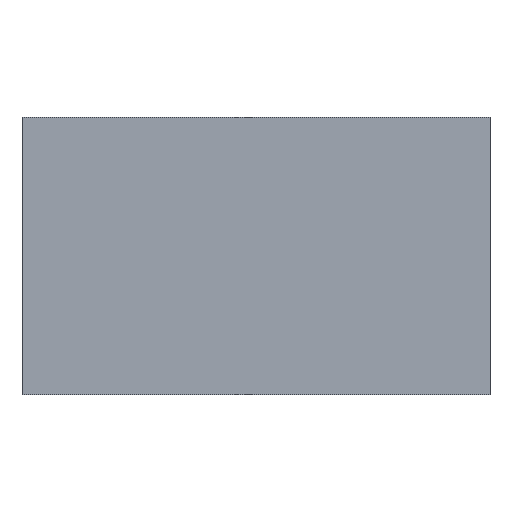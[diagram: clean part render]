
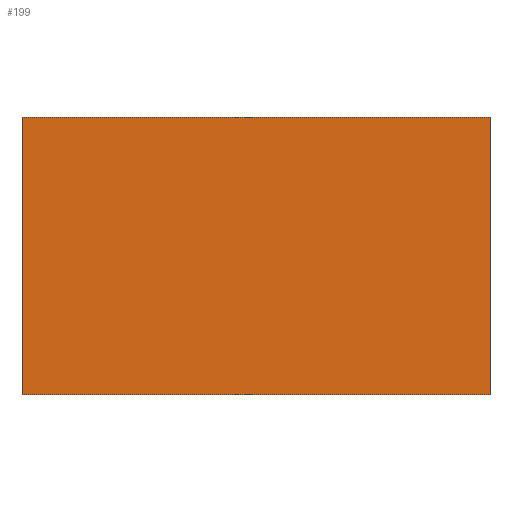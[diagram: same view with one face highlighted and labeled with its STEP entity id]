
A CAD part, top view. The second image highlights one B-rep face of the part: STEP entity #199.
In plain terms, the highlighted planar face has unit normal (0, 0, 1).
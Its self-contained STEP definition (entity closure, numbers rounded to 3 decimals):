
#17 = EDGE_CURVE ( 'NONE', #39, #36, #130, .T. ) ;
#18 = EDGE_CURVE ( 'NONE', #48, #39, #150, .T. ) ;
#22 = AXIS2_PLACEMENT_3D ( 'NONE', #80, #114, #111 ) ;
#23 = EDGE_CURVE ( 'NONE', #38, #48, #188, .T. ) ;
#25 = EDGE_CURVE ( 'NONE', #36, #38, #157, .T. ) ;
#36 = VERTEX_POINT ( 'NONE', #93 ) ;
#38 = VERTEX_POINT ( 'NONE', #77 ) ;
#39 = VERTEX_POINT ( 'NONE', #67 ) ;
#41 = CARTESIAN_POINT ( 'NONE',  ( -404., 0., 6. ) ) ;
#48 = VERTEX_POINT ( 'NONE', #119 ) ;
#67 = CARTESIAN_POINT ( 'NONE',  ( -404., 0., 6. ) ) ;
#69 = CARTESIAN_POINT ( 'NONE',  ( -404., 0., 6. ) ) ;
#77 = CARTESIAN_POINT ( 'NONE',  ( 404., 479., 6. ) ) ;
#80 = CARTESIAN_POINT ( 'NONE',  ( -404., 479., 6. ) ) ;
#87 = PLANE ( 'NONE',  #22 ) ;
#91 = DIRECTION ( 'NONE',  ( 0., 1., 0. ) ) ;
#92 = DIRECTION ( 'NONE',  ( -1., 0., 0. ) ) ;
#93 = CARTESIAN_POINT ( 'NONE',  ( 404., 0., 6. ) ) ;
#94 = CARTESIAN_POINT ( 'NONE',  ( 404., 0., 6. ) ) ;
#96 = DIRECTION ( 'NONE',  ( 0., -1., 0. ) ) ;
#98 = CARTESIAN_POINT ( 'NONE',  ( -404., 479., 6. ) ) ;
#111 = DIRECTION ( 'NONE',  ( 0., 1., 0. ) ) ;
#114 = DIRECTION ( 'NONE',  ( 0., 0., -1. ) ) ;
#117 = DIRECTION ( 'NONE',  ( 1., 0., 0. ) ) ;
#119 = CARTESIAN_POINT ( 'NONE',  ( -404., 479., 6. ) ) ;
#130 = LINE ( 'NONE', #41, #131 ) ;
#131 = VECTOR ( 'NONE', #117, 1000. ) ;
#136 = VECTOR ( 'NONE', #92, 1000. ) ;
#141 = ORIENTED_EDGE ( 'NONE', *, *, #25, .T. ) ;
#142 = VECTOR ( 'NONE', #96, 1000. ) ;
#143 = ORIENTED_EDGE ( 'NONE', *, *, #17, .T. ) ;
#150 = LINE ( 'NONE', #69, #142 ) ;
#155 = FACE_OUTER_BOUND ( 'NONE', #185, .T. ) ;
#156 = VECTOR ( 'NONE', #91, 1000. ) ;
#157 = LINE ( 'NONE', #94, #156 ) ;
#177 = ORIENTED_EDGE ( 'NONE', *, *, #23, .T. ) ;
#185 = EDGE_LOOP ( 'NONE', ( #187, #143, #141, #177 ) ) ;
#187 = ORIENTED_EDGE ( 'NONE', *, *, #18, .T. ) ;
#188 = LINE ( 'NONE', #98, #136 ) ;
#199 = ADVANCED_FACE ( 'NONE', ( #155 ), #87, .F. ) ;
